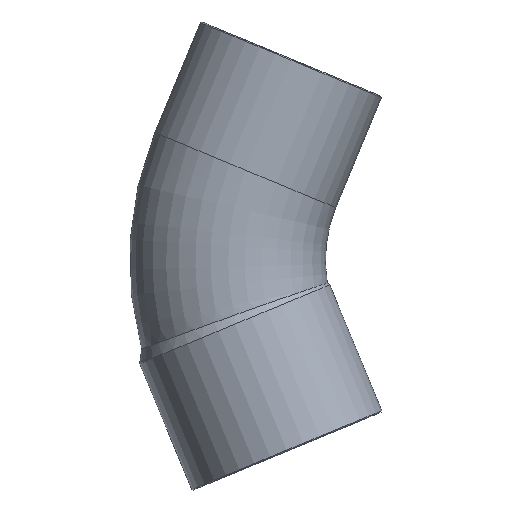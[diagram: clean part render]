
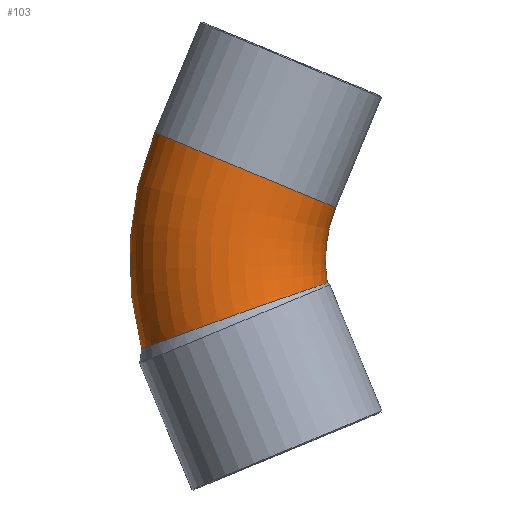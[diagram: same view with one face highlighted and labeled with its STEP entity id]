
A CAD part, front view. The second image highlights one B-rep face of the part: STEP entity #103.
In plain terms, the highlighted toroidal (fillet/blend) face has major radius 43.2 mm and minor radius 18 mm.
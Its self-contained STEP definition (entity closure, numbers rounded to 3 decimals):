
#44=CARTESIAN_POINT('',(4.435,0.,0.));
#45=DIRECTION('',(0.,1.0,0.));
#46=DIRECTION('',(-0.383,0.,0.924));
#47=AXIS2_PLACEMENT_3D('',#44,#45,#46);
#48=TOROIDAL_SURFACE('',#47,43.2,18.0);
#49=CARTESIAN_POINT('',(-54.548,0.,-16.323));
#50=VERTEX_POINT('',#49);
#51=CARTESIAN_POINT('',(-52.106,0.,23.42));
#52=VERTEX_POINT('',#51);
#53=CARTESIAN_POINT('',(4.435,0.,0.));
#54=DIRECTION('',(0.0,1.0,0.0));
#55=DIRECTION('',(0.0,0.0,1.0));
#56=AXIS2_PLACEMENT_3D('',#53,#54,#55);
#57=CIRCLE('',#56,61.2);
#58=EDGE_CURVE('',#50,#52,#57,.T.);
#59=ORIENTED_EDGE('',*,*,#58,.F.);
#60=CARTESIAN_POINT('',(-20.408,0.,-4.227));
#61=VERTEX_POINT('',#60);
#62=CARTESIAN_POINT('',(-54.548,0.,-16.323));
#63=CARTESIAN_POINT('',(-54.548,-1.325,-16.323));
#64=CARTESIAN_POINT('',(-54.41,-2.645,-16.273));
#65=CARTESIAN_POINT('',(-53.864,-5.23,-16.072));
#66=CARTESIAN_POINT('',(-53.458,-6.486,-15.923));
#67=CARTESIAN_POINT('',(-51.982,-9.804,-15.383));
#68=CARTESIAN_POINT('',(-50.658,-11.707,-14.898));
#69=CARTESIAN_POINT('',(-47.389,-14.874,-13.706));
#70=CARTESIAN_POINT('',(-45.474,-16.104,-13.01));
#71=CARTESIAN_POINT('',(-41.295,-17.718,-11.5));
#72=CARTESIAN_POINT('',(-39.07,-18.083,-10.7));
#73=CARTESIAN_POINT('',(-34.606,-17.885,-9.111));
#74=CARTESIAN_POINT('',(-32.409,-17.324,-8.335));
#75=CARTESIAN_POINT('',(-28.349,-15.346,-6.918));
#76=CARTESIAN_POINT('',(-26.521,-13.953,-6.289));
#77=CARTESIAN_POINT('',(-23.489,-10.524,-5.255));
#78=CARTESIAN_POINT('',(-22.305,-8.527,-4.858));
#79=CARTESIAN_POINT('',(-20.784,-4.318,-4.351));
#80=CARTESIAN_POINT('',(-20.408,-2.168,-4.227));
#81=CARTESIAN_POINT('',(-20.408,0.,-4.227));
#82=B_SPLINE_CURVE_WITH_KNOTS('',3,(#62,#63,#64,#65,#66,#67,#68,#69,#70,#71,#72,#73,#74,#75,#76,#77,#78,#79,#80,#81),.UNSPECIFIED.,.F.,.U.,(4,2,2,2,2,2,2,2,2,4),(-11.377,-10.979,-10.582,-9.878,-9.171,-8.46,-7.748,-7.04,-6.34,-5.689),.UNSPECIFIED.);
#83=EDGE_CURVE('',#50,#61,#82,.T.);
#84=ORIENTED_EDGE('',*,*,#83,.T.);
#85=CARTESIAN_POINT('',(-18.847,0.,9.644));
#86=VERTEX_POINT('',#85);
#87=CARTESIAN_POINT('',(4.435,0.,0.));
#88=DIRECTION('',(0.0,-1.0,0.0));
#89=DIRECTION('',(0.0,0.0,1.0));
#90=AXIS2_PLACEMENT_3D('',#87,#88,#89);
#91=CIRCLE('',#90,25.2);
#92=EDGE_CURVE('',#86,#61,#91,.T.);
#93=ORIENTED_EDGE('',*,*,#92,.F.);
#94=CARTESIAN_POINT('',(-35.477,0.,16.532));
#95=DIRECTION('',(-0.383,0.,-0.924));
#96=DIRECTION('',(-0.924,0.,0.383));
#97=AXIS2_PLACEMENT_3D('',#94,#95,#96);
#98=CIRCLE('',#97,18.0);
#99=EDGE_CURVE('',#86,#52,#98,.T.);
#100=ORIENTED_EDGE('',*,*,#99,.T.);
#101=EDGE_LOOP('',(#59,#84,#93,#100));
#102=FACE_OUTER_BOUND('',#101,.T.);
#103=ADVANCED_FACE('',(#102),#48,.T.);
